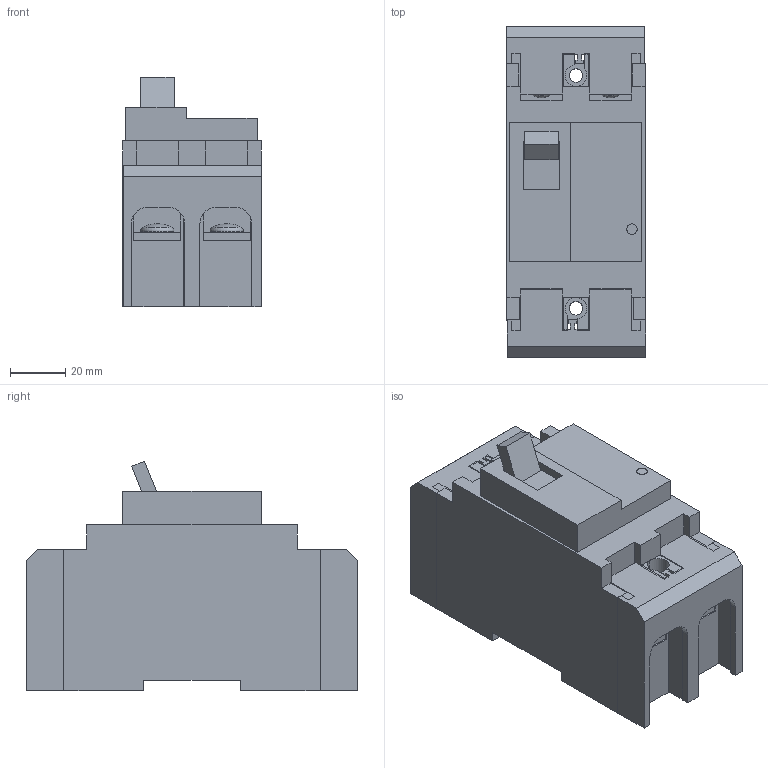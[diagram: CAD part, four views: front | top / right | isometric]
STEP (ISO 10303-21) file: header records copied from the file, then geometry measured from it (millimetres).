
FILE_DESCRIPTION( ( '' ), '1' );
FILE_NAME( 'E:/D&C電子外形図_3D/step/BW100EAGU-2P.stp', '2012-10-19T05:13:29', ( '' ), ( '' ), ' ', ' ', ' ' );
FILE_SCHEMA( ( 'automotive_design' ) );
Length unit declared in the file: millimetre
Products named in the file (8): 1; 2; 3; 4; 5; 6; 7; 8
Bounding box: 50.2 x 119.3 x 82.91 mm (x, y, z)
Volume: 293117.3 mm3; surface area: 59179.9 mm2
Topology: 8 solids, 8 shells, 264 faces, 692 edges, 460 vertices
Faces by surface type: plane 206, cylinder 42, sphere 8, torus 8
Entity records: 16125 total; most frequent: STYLED_ITEM 1424, PRESENTATION_STYLE_ASSIGNMENT 1424, CARTESIAN_POINT 1424, COLOUR_RGB 1424, ORIENTED_EDGE 1384, DIRECTION 1352, EDGE_CURVE 692, CURVE_STYLE 692
